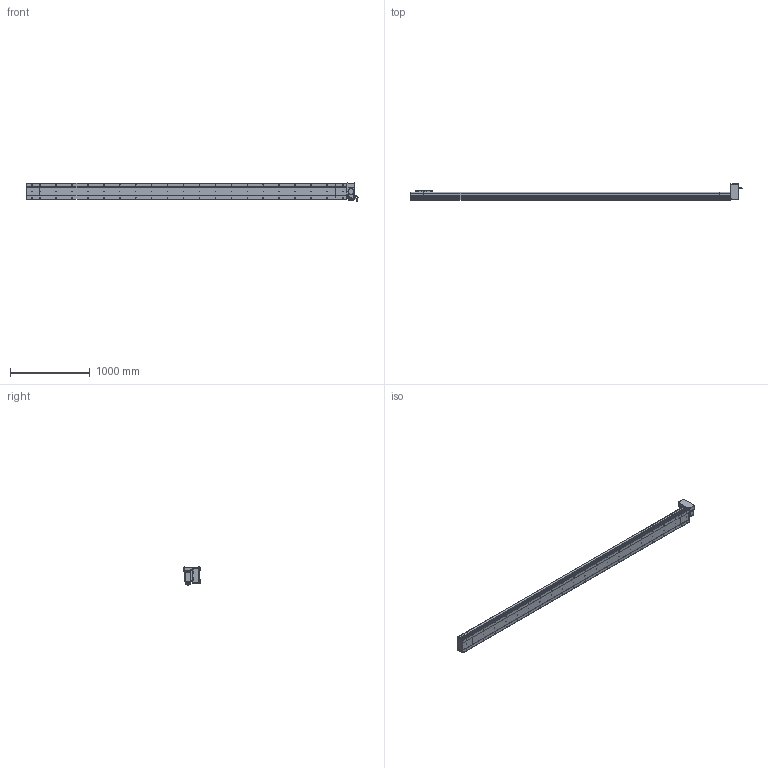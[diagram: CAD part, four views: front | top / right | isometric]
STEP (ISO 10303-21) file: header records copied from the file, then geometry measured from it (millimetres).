
FILE_DESCRIPTION (( 'STEP AP214' ), '1' );
FILE_NAME ('D20 CBH LT S3700.STEP', '2010-06-30T11:07:45', ( 'Conseil Régional Haute-Normandie' ), ( 'Conseil Régional Haute-Normandie' ), 'SwSTEP 2.0', 'SolidWorks 2010', '' );
FILE_SCHEMA (( 'AUTOMOTIVE_DESIGN' ));
Length unit declared in the file: millimetre
Products named in the file (31): Support Chariot D20_Default; Corp Tail D20 LT_Default; Plaque de Bout Head D20 LT_Default; Chariot D20_Default; Conecteur2_Default; codeur 90BLDC125-640; Head LT_Default; Moteur motionking 90BLDC125A-640; vis M5 L47_Default; vis M5 L30_Default; ecrou_Default; Conecteur_Default; D20 CBH LT S3700; Couvercle LT_Default; Cache Support Moteur LT_Default; corps 90BLDC125A-640; avant 90BLDC125A-640; Support moteur LT_Default; Rondelle Cache D20 LT_Default; Plaque De Serrage D20 LT_Default; Couvercle S3700_Default; Corp S3700_Default; Corp D20 S3700_Default; vis M5 L15_Default; Plaque De Serrage D20_Default; Couvercle_Default; Corp Tail D20+100_Default; Tail D20+100_Default; Plaque de Bout Tail D20_Default; Glissiere_Default
Assembly tree (66 placements, depth 4):
  D20 CBH LT S3700
    Chariot D20_Default
      vis M5 L15_Default  x8
      Glissiere_Default
      Chariot D20_Default
      Support Chariot D20_Default
    Corp D20 S3700_Default
      Couvercle S3700_Default
      Corp S3700_Default
    Head LT_Default
      vis M5 L15_Default  x12
      ecrou_Default  x4
      vis M5 L47_Default  x4
      vis M5 L30_Default  x4
      Cache Support Moteur LT_Default
      Rondelle Cache D20 LT_Default  x3
      Couvercle LT_Default
      Support moteur LT_Default
      Plaque De Serrage D20 LT_Default
      Plaque de Bout Head D20 LT_Default
      Moteur motionking 90BLDC125A-640
        Conecteur2_Default
        codeur 90BLDC125-640
        corps 90BLDC125A-640
        avant 90BLDC125A-640
        Conecteur_Default
      Corp Tail D20 LT_Default
    Tail D20+100_Default
      vis M5 L15_Default  x6
      Plaque de Bout Tail D20_Default
      Couvercle_Default
      Plaque De Serrage D20_Default
      Corp Tail D20+100_Default
Bounding box: 4163.45 x 202.5 x 229.7 mm (x, y, z)
Volume: 27586428.6 mm3; surface area: 5282619.7 mm2
Topology: 103 solids, 103 shells, 3867 faces, 9656 edges, 6280 vertices
Faces by surface type: plane 2128, bspline 806, cylinder 770, torus 91, cone 68, sphere 4
Entity records: 163198 total; most frequent: CARTESIAN_POINT 83647, ORIENTED_EDGE 15780, DIRECTION 12120, EDGE_CURVE 7890, VERTEX_POINT 5224, VECTOR 5018, LINE 5018, AXIS2_PLACEMENT_3D 3551
